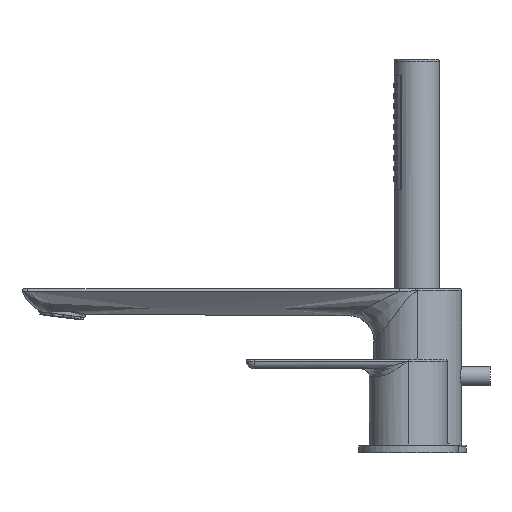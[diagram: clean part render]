
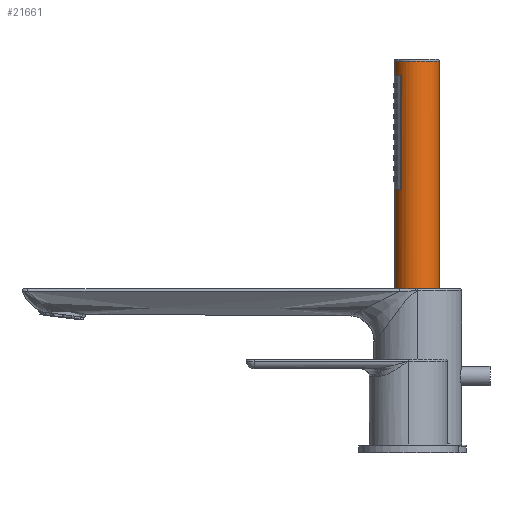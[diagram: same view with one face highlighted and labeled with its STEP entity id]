
A CAD part, left-side view. The second image highlights one B-rep face of the part: STEP entity #21661.
In plain terms, the highlighted cylindrical face has radius 11.5 mm (diameter 23 mm), a partial arc.
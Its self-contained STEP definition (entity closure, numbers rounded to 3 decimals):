
#174 = CARTESIAN_POINT ( 'NONE',  ( 135.017, -82.813, 157.972 ) ) ;
#212 = VERTEX_POINT ( 'NONE', #47290 ) ;
#289 = VERTEX_POINT ( 'NONE', #3988 ) ;
#1002 = ORIENTED_EDGE ( 'NONE', *, *, #50140, .F. ) ;
#1859 = EDGE_CURVE ( 'NONE', #31090, #289, #5417, .T. ) ;
#2397 = CIRCLE ( 'NONE', #42519, 11.5 ) ;
#2541 = VECTOR ( 'NONE', #42737, 1000. ) ;
#2596 = CARTESIAN_POINT ( 'NONE',  ( 126.667, -74.906, 150.772 ) ) ;
#3571 = DIRECTION ( 'NONE',  ( 0., -1., 0. ) ) ;
#3705 = ORIENTED_EDGE ( 'NONE', *, *, #38917, .T. ) ;
#3762 = DIRECTION ( 'NONE',  ( 0., 0., 1. ) ) ;
#3988 = CARTESIAN_POINT ( 'NONE',  ( 135.017, -71.313, 92.272 ) ) ;
#4263 = EDGE_CURVE ( 'NONE', #33987, #5429, #23948, .T. ) ;
#4316 = CARTESIAN_POINT ( 'NONE',  ( 135.017, -71.313, 111.972 ) ) ;
#4719 = DIRECTION ( 'NONE',  ( 0., 0., -1. ) ) ;
#5010 = AXIS2_PLACEMENT_3D ( 'NONE', #36705, #10159, #53541 ) ;
#5417 = LINE ( 'NONE', #4316, #40403 ) ;
#5429 = VERTEX_POINT ( 'NONE', #2596 ) ;
#6079 = DIRECTION ( 'NONE',  ( 0., 0., 1. ) ) ;
#6171 = CYLINDRICAL_SURFACE ( 'NONE', #5010, 11.5 ) ;
#6335 = VERTEX_POINT ( 'NONE', #54184 ) ;
#7643 = CARTESIAN_POINT ( 'NONE',  ( 135.017, -94.313, 111.972 ) ) ;
#8013 = EDGE_CURVE ( 'NONE', #17906, #6335, #2397, .T. ) ;
#8275 = DIRECTION ( 'NONE',  ( 0., -1., 0. ) ) ;
#8838 = LINE ( 'NONE', #11217, #12605 ) ;
#9919 = ORIENTED_EDGE ( 'NONE', *, *, #18965, .T. ) ;
#10159 = DIRECTION ( 'NONE',  ( 0., 0., 1. ) ) ;
#11217 = CARTESIAN_POINT ( 'NONE',  ( 126.667, -74.906, 111.972 ) ) ;
#11590 = AXIS2_PLACEMENT_3D ( 'NONE', #34952, #4719, #3571 ) ;
#12181 = ORIENTED_EDGE ( 'NONE', *, *, #32536, .T. ) ;
#12605 = VECTOR ( 'NONE', #26240, 1000. ) ;
#12971 = AXIS2_PLACEMENT_3D ( 'NONE', #50779, #46461, #55071 ) ;
#13352 = CIRCLE ( 'NONE', #27943, 11.5 ) ;
#13645 = CARTESIAN_POINT ( 'NONE',  ( 135.017, -71.313, -25.238 ) ) ;
#14903 = CARTESIAN_POINT ( 'NONE',  ( 135.017, -82.813, 150.772 ) ) ;
#15491 = CARTESIAN_POINT ( 'NONE',  ( 135.017, -82.813, -25.238 ) ) ;
#15759 = DIRECTION ( 'NONE',  ( 0., -1., 0. ) ) ;
#16593 = CARTESIAN_POINT ( 'NONE',  ( 135.017, -71.313, 111.972 ) ) ;
#16739 = VERTEX_POINT ( 'NONE', #20924 ) ;
#17321 = ORIENTED_EDGE ( 'NONE', *, *, #26054, .T. ) ;
#17559 = ORIENTED_EDGE ( 'NONE', *, *, #4263, .T. ) ;
#17906 = VERTEX_POINT ( 'NONE', #53024 ) ;
#18470 = CIRCLE ( 'NONE', #12971, 11.5 ) ;
#18965 = EDGE_CURVE ( 'NONE', #212, #289, #18470, .T. ) ;
#18999 = FACE_OUTER_BOUND ( 'NONE', #35748, .T. ) ;
#20352 = DIRECTION ( 'NONE',  ( 0., -1., 0. ) ) ;
#20924 = CARTESIAN_POINT ( 'NONE',  ( 135.017, -71.313, 157.972 ) ) ;
#21661 = ADVANCED_FACE ( 'NONE', ( #18999 ), #6171, .T. ) ;
#22884 = CARTESIAN_POINT ( 'NONE',  ( 135.017, -94.313, 157.972 ) ) ;
#23753 = EDGE_CURVE ( 'NONE', #31090, #17906, #56079, .T. ) ;
#23948 = CIRCLE ( 'NONE', #36739, 11.5 ) ;
#26054 = EDGE_CURVE ( 'NONE', #55692, #16739, #36226, .T. ) ;
#26240 = DIRECTION ( 'NONE',  ( 0., 0., -1. ) ) ;
#27943 = AXIS2_PLACEMENT_3D ( 'NONE', #174, #44054, #52905 ) ;
#31090 = VERTEX_POINT ( 'NONE', #13645 ) ;
#31111 = DIRECTION ( 'NONE',  ( 0., 0., 1. ) ) ;
#31906 = EDGE_CURVE ( 'NONE', #6335, #34697, #46718, .T. ) ;
#32536 = EDGE_CURVE ( 'NONE', #5429, #212, #8838, .T. ) ;
#32904 = ORIENTED_EDGE ( 'NONE', *, *, #8013, .T. ) ;
#33987 = VERTEX_POINT ( 'NONE', #52868 ) ;
#34697 = VERTEX_POINT ( 'NONE', #22884 ) ;
#34952 = CARTESIAN_POINT ( 'NONE',  ( 135.017, -82.813, 157.972 ) ) ;
#35748 = EDGE_LOOP ( 'NONE', ( #38085, #55654, #32904, #46809, #3705, #17321, #1002, #17559, #12181, #9919 ) ) ;
#36226 = CIRCLE ( 'NONE', #11590, 11.5 ) ;
#36705 = CARTESIAN_POINT ( 'NONE',  ( 135.017, -82.813, 111.972 ) ) ;
#36739 = AXIS2_PLACEMENT_3D ( 'NONE', #14903, #6079, #15759 ) ;
#38085 = ORIENTED_EDGE ( 'NONE', *, *, #1859, .F. ) ;
#38917 = EDGE_CURVE ( 'NONE', #34697, #55692, #13352, .T. ) ;
#40403 = VECTOR ( 'NONE', #31111, 1000. ) ;
#40783 = CARTESIAN_POINT ( 'NONE',  ( 134.73, -71.317, 157.972 ) ) ;
#42519 = AXIS2_PLACEMENT_3D ( 'NONE', #15491, #42874, #20352 ) ;
#42568 = LINE ( 'NONE', #16593, #56150 ) ;
#42737 = DIRECTION ( 'NONE',  ( 0., 0., 1. ) ) ;
#42874 = DIRECTION ( 'NONE',  ( 0., 0., 1. ) ) ;
#43665 = CARTESIAN_POINT ( 'NONE',  ( 135.017, -82.813, -25.238 ) ) ;
#44054 = DIRECTION ( 'NONE',  ( 0., 0., -1. ) ) ;
#46461 = DIRECTION ( 'NONE',  ( 0., 0., -1. ) ) ;
#46718 = LINE ( 'NONE', #7643, #2541 ) ;
#46809 = ORIENTED_EDGE ( 'NONE', *, *, #31906, .T. ) ;
#47290 = CARTESIAN_POINT ( 'NONE',  ( 126.667, -74.906, 92.272 ) ) ;
#50140 = EDGE_CURVE ( 'NONE', #33987, #16739, #42568, .T. ) ;
#50779 = CARTESIAN_POINT ( 'NONE',  ( 135.017, -82.813, 92.272 ) ) ;
#51691 = DIRECTION ( 'NONE',  ( 0., 0., 1. ) ) ;
#52868 = CARTESIAN_POINT ( 'NONE',  ( 135.017, -71.313, 150.772 ) ) ;
#52905 = DIRECTION ( 'NONE',  ( 0., -1., 0. ) ) ;
#53024 = CARTESIAN_POINT ( 'NONE',  ( 123.517, -82.813, -25.238 ) ) ;
#53304 = AXIS2_PLACEMENT_3D ( 'NONE', #43665, #3762, #8275 ) ;
#53541 = DIRECTION ( 'NONE',  ( 0., -1., 0. ) ) ;
#54184 = CARTESIAN_POINT ( 'NONE',  ( 135.017, -94.313, -25.238 ) ) ;
#55071 = DIRECTION ( 'NONE',  ( 0., -1., 0. ) ) ;
#55654 = ORIENTED_EDGE ( 'NONE', *, *, #23753, .T. ) ;
#55692 = VERTEX_POINT ( 'NONE', #40783 ) ;
#56079 = CIRCLE ( 'NONE', #53304, 11.5 ) ;
#56150 = VECTOR ( 'NONE', #51691, 1000. ) ;
